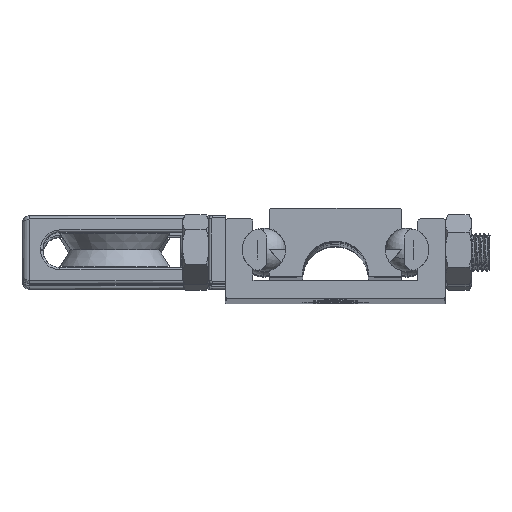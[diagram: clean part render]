
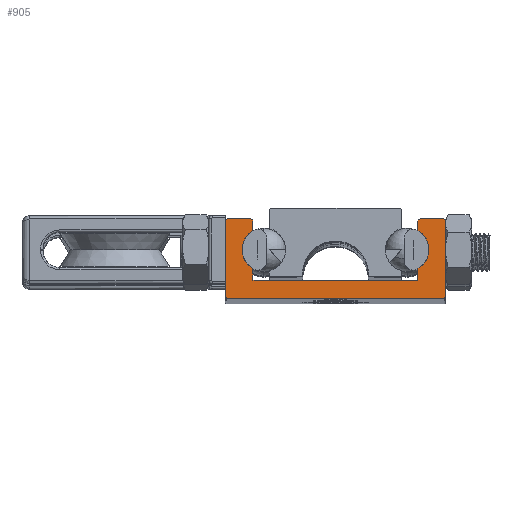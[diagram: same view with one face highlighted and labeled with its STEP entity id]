
A CAD part, top view. The second image highlights one B-rep face of the part: STEP entity #905.
In plain terms, the highlighted planar face has unit normal (0, 0, 1).
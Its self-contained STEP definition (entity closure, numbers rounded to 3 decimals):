
#61=CARTESIAN_POINT('',(7.5,1.6,304.8));
#62=VERTEX_POINT('',#61);
#69=CARTESIAN_POINT('',(7.5,2.677,304.8));
#70=VERTEX_POINT('',#69);
#71=CARTESIAN_POINT('',(7.5,2.677,304.8));
#72=DIRECTION('',(0.,-1.,0.));
#73=VECTOR('',#72,1.077);
#74=LINE('',#71,#73);
#75=EDGE_CURVE('',#70,#62,#74,.T.);
#101=CARTESIAN_POINT('',(-7.5,2.677,304.8));
#102=VERTEX_POINT('',#101);
#109=CARTESIAN_POINT('',(-7.5,1.6,304.8));
#110=VERTEX_POINT('',#109);
#111=CARTESIAN_POINT('',(-7.5,1.6,304.8));
#112=DIRECTION('',(0.,1.,0.));
#113=VECTOR('',#112,1.077);
#114=LINE('',#111,#113);
#115=EDGE_CURVE('',#110,#102,#114,.T.);
#141=CARTESIAN_POINT('',(7.5,6.123,304.8));
#142=VERTEX_POINT('',#141);
#143=CARTESIAN_POINT('',(6.516,4.4,304.8));
#144=DIRECTION('',(0.496,0.868,0.));
#145=DIRECTION('',(0.,-0.,-1.));
#146=AXIS2_PLACEMENT_3D('',#143,#145,#144);
#147=CIRCLE('',#146,1.985);
#148=EDGE_CURVE('',#142,#70,#147,.T.);
#265=CARTESIAN_POINT('',(-7.5,6.123,304.8));
#266=VERTEX_POINT('',#265);
#273=CARTESIAN_POINT('',(-6.516,4.4,304.8));
#274=DIRECTION('',(-0.496,-0.868,0.));
#275=DIRECTION('',(0.,0.,-1.));
#276=AXIS2_PLACEMENT_3D('',#273,#275,#274);
#277=CIRCLE('',#276,1.985);
#278=EDGE_CURVE('',#102,#266,#277,.T.);
#599=CARTESIAN_POINT('',(7.7,7.2,304.8));
#600=VERTEX_POINT('',#599);
#607=CARTESIAN_POINT('',(9.8,7.2,304.8));
#608=VERTEX_POINT('',#607);
#609=CARTESIAN_POINT('',(9.8,7.2,304.8));
#610=DIRECTION('',(-1.,0.,0.));
#611=VECTOR('',#610,2.1);
#612=LINE('',#609,#611);
#613=EDGE_CURVE('',#608,#600,#612,.T.);
#629=CARTESIAN_POINT('',(7.5,7.,304.8));
#630=VERTEX_POINT('',#629);
#631=CARTESIAN_POINT('',(7.5,7.,304.8));
#632=DIRECTION('',(0.,-1.,0.));
#633=VECTOR('',#632,0.877);
#634=LINE('',#631,#633);
#635=EDGE_CURVE('',#630,#142,#634,.T.);
#668=CARTESIAN_POINT('',(-7.5,7.,304.8));
#669=VERTEX_POINT('',#668);
#676=CARTESIAN_POINT('',(-7.5,6.123,304.8));
#677=DIRECTION('',(0.,1.,0.));
#678=VECTOR('',#677,0.877);
#679=LINE('',#676,#678);
#680=EDGE_CURVE('',#266,#669,#679,.T.);
#701=CARTESIAN_POINT('',(-9.8,7.2,304.8));
#702=VERTEX_POINT('',#701);
#709=CARTESIAN_POINT('',(-7.7,7.2,304.8));
#710=VERTEX_POINT('',#709);
#711=CARTESIAN_POINT('',(-7.7,7.2,304.8));
#712=DIRECTION('',(-1.,0.,0.));
#713=VECTOR('',#712,2.1);
#714=LINE('',#711,#713);
#715=EDGE_CURVE('',#710,#702,#714,.T.);
#741=CARTESIAN_POINT('',(10.,7.,304.8));
#742=VERTEX_POINT('',#741);
#743=CARTESIAN_POINT('',(9.8,7.,304.8));
#744=DIRECTION('',(1.,0.,0.));
#745=DIRECTION('',(0.,0.,1.));
#746=AXIS2_PLACEMENT_3D('',#743,#745,#744);
#747=CIRCLE('',#746,0.2);
#748=EDGE_CURVE('',#742,#608,#747,.T.);
#772=CARTESIAN_POINT('',(7.7,7.,304.8));
#773=DIRECTION('',(0.,1.,0.));
#774=DIRECTION('',(0.,0.,1.));
#775=AXIS2_PLACEMENT_3D('',#772,#774,#773);
#776=CIRCLE('',#775,0.2);
#777=EDGE_CURVE('',#600,#630,#776,.T.);
#796=CARTESIAN_POINT('',(-7.7,7.,304.8));
#797=DIRECTION('',(1.,0.,0.));
#798=DIRECTION('',(0.,0.,1.));
#799=AXIS2_PLACEMENT_3D('',#796,#798,#797);
#800=CIRCLE('',#799,0.2);
#801=EDGE_CURVE('',#669,#710,#800,.T.);
#821=CARTESIAN_POINT('',(-10.,7.,304.8));
#822=VERTEX_POINT('',#821);
#829=CARTESIAN_POINT('',(-9.8,7.,304.8));
#830=DIRECTION('',(0.,1.,0.));
#831=DIRECTION('',(0.,0.,1.));
#832=AXIS2_PLACEMENT_3D('',#829,#831,#830);
#833=CIRCLE('',#832,0.2);
#834=EDGE_CURVE('',#702,#822,#833,.T.);
#840=CARTESIAN_POINT('',(0.,10.,304.8));
#841=DIRECTION('',(1.,0.,0.));
#842=DIRECTION('',(0.,0.,1.));
#843=AXIS2_PLACEMENT_3D('',#840,#842,#841);
#844=PLANE('',#843);
#845=ORIENTED_EDGE('',*,*,#748,.T.);
#846=ORIENTED_EDGE('',*,*,#613,.T.);
#847=ORIENTED_EDGE('',*,*,#777,.T.);
#848=ORIENTED_EDGE('',*,*,#635,.T.);
#849=ORIENTED_EDGE('',*,*,#148,.T.);
#850=ORIENTED_EDGE('',*,*,#75,.T.);
#851=CARTESIAN_POINT('',(7.5,1.6,304.8));
#852=DIRECTION('',(-1.,0.,0.));
#853=VECTOR('',#852,15.);
#854=LINE('',#851,#853);
#855=EDGE_CURVE('',#62,#110,#854,.T.);
#856=ORIENTED_EDGE('E19',*,*,#855,.T.);
#857=ORIENTED_EDGE('E19',*,*,#115,.T.);
#858=ORIENTED_EDGE('E19',*,*,#278,.T.);
#859=ORIENTED_EDGE('E19',*,*,#680,.T.);
#860=ORIENTED_EDGE('E19',*,*,#801,.T.);
#861=ORIENTED_EDGE('E19',*,*,#715,.T.);
#862=ORIENTED_EDGE('E19',*,*,#834,.T.);
#863=CARTESIAN_POINT('',(-10.,0.1,304.8));
#864=VERTEX_POINT('',#863);
#865=CARTESIAN_POINT('',(-10.,7.,304.8));
#866=DIRECTION('',(0.,-1.,0.));
#867=VECTOR('',#866,6.9);
#868=LINE('',#865,#867);
#869=EDGE_CURVE('',#822,#864,#868,.T.);
#870=ORIENTED_EDGE('E24',*,*,#869,.T.);
#871=CARTESIAN_POINT('',(-9.9,0.,304.8));
#872=VERTEX_POINT('',#871);
#873=CARTESIAN_POINT('',(-9.9,0.1,304.8));
#874=DIRECTION('',(-1.,0.,0.));
#875=DIRECTION('',(0.,0.,1.));
#876=AXIS2_PLACEMENT_3D('',#873,#875,#874);
#877=CIRCLE('',#876,0.1);
#878=EDGE_CURVE('',#864,#872,#877,.T.);
#879=ORIENTED_EDGE('E80',*,*,#878,.T.);
#880=CARTESIAN_POINT('',(9.9,0.,304.8));
#881=VERTEX_POINT('',#880);
#882=CARTESIAN_POINT('',(9.9,0.,304.8));
#883=DIRECTION('',(-1.,0.,0.));
#884=VECTOR('',#883,19.8);
#885=LINE('',#882,#884);
#886=EDGE_CURVE('',#881,#872,#885,.T.);
#887=ORIENTED_EDGE('E13',*,*,#886,.F.);
#888=CARTESIAN_POINT('',(10.,0.1,304.8));
#889=VERTEX_POINT('',#888);
#890=CARTESIAN_POINT('',(9.9,0.1,304.8));
#891=DIRECTION('',(0.,-1.,0.));
#892=DIRECTION('',(0.,0.,1.));
#893=AXIS2_PLACEMENT_3D('',#890,#892,#891);
#894=CIRCLE('',#893,0.1);
#895=EDGE_CURVE('',#881,#889,#894,.T.);
#896=ORIENTED_EDGE('E77',*,*,#895,.T.);
#897=CARTESIAN_POINT('',(10.,0.1,304.8));
#898=DIRECTION('',(0.,1.,0.));
#899=VECTOR('',#898,6.9);
#900=LINE('',#897,#899);
#901=EDGE_CURVE('',#889,#742,#900,.T.);
#902=ORIENTED_EDGE('E14',*,*,#901,.T.);
#903=EDGE_LOOP('',(#845,#846,#847,#848,#849,#850,#856,#857,#858,#859,#860,#861,#862,#870,#879,#887,#896,#902));
#904=FACE_OUTER_BOUND('',#903,.T.);
#905=ADVANCED_FACE('F18',(#904),#844,.T.);
